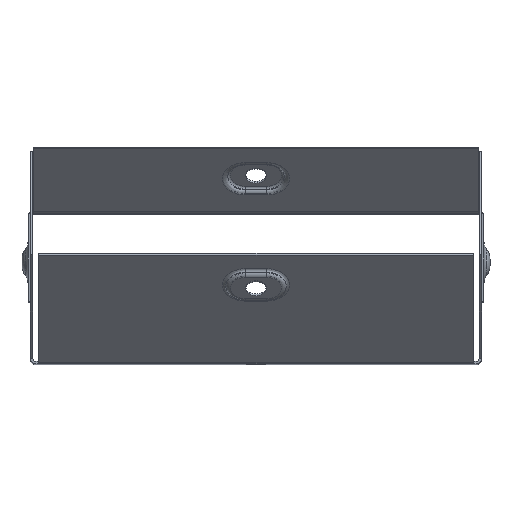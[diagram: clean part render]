
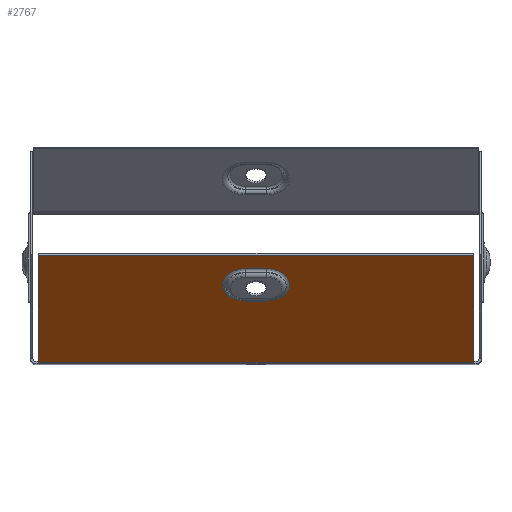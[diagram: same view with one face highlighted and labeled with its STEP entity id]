
A CAD part, top view. The second image highlights one B-rep face of the part: STEP entity #2767.
In plain terms, the highlighted planar face has unit normal (0, -0.707, 0.707).
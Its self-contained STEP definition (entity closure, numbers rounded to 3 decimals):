
#235 = CIRCLE ( 'NONE', #1949, 7.598 ) ;
#236 = CARTESIAN_POINT ( 'NONE',  ( 72.299, -50.273, 84.077 ) ) ;
#636 = ORIENTED_EDGE ( 'NONE', *, *, #5695, .T. ) ;
#1147 = VECTOR ( 'NONE', #12901, 1000. ) ;
#1254 = EDGE_CURVE ( 'NONE', #5560, #4587, #7123, .T. ) ;
#1272 = VERTEX_POINT ( 'NONE', #1566 ) ;
#1463 = CARTESIAN_POINT ( 'NONE',  ( 73.2, -14.702, 119.648 ) ) ;
#1566 = CARTESIAN_POINT ( 'NONE',  ( -3.5, -19.229, 115.121 ) ) ;
#1687 = EDGE_CURVE ( 'NONE', #4587, #11254, #7601, .T. ) ;
#1755 = CARTESIAN_POINT ( 'NONE',  ( 3.5, -29.974, 104.376 ) ) ;
#1936 = CARTESIAN_POINT ( 'NONE',  ( -72.299, -50.273, 84.077 ) ) ;
#1949 = AXIS2_PLACEMENT_3D ( 'NONE', #2522, #9728, #11618 ) ;
#1988 = CIRCLE ( 'NONE', #8026, 7.598 ) ;
#2205 = ORIENTED_EDGE ( 'NONE', *, *, #1254, .T. ) ;
#2277 = VECTOR ( 'NONE', #6783, 1000. ) ;
#2483 = CARTESIAN_POINT ( 'NONE',  ( -3.5, -29.974, 104.376 ) ) ;
#2522 = CARTESIAN_POINT ( 'NONE',  ( 3.5, -24.602, 109.748 ) ) ;
#2532 = FACE_OUTER_BOUND ( 'NONE', #7684, .T. ) ;
#2694 = CARTESIAN_POINT ( 'NONE',  ( 72.299, -14.702, 119.648 ) ) ;
#2757 = AXIS2_PLACEMENT_3D ( 'NONE', #10101, #8189, #4113 ) ;
#2767 = ADVANCED_FACE ( 'NONE', ( #3170, #2532 ), #11062, .F. ) ;
#3107 = LINE ( 'NONE', #11671, #12191 ) ;
#3170 = FACE_BOUND ( 'NONE', #7710, .T. ) ;
#3454 = EDGE_CURVE ( 'NONE', #3758, #13193, #4942, .T. ) ;
#3677 = ORIENTED_EDGE ( 'NONE', *, *, #3454, .T. ) ;
#3758 = VERTEX_POINT ( 'NONE', #10755 ) ;
#3775 = DIRECTION ( 'NONE',  ( -1., 0., 0. ) ) ;
#4009 = CARTESIAN_POINT ( 'NONE',  ( 73.2, -50.273, 84.077 ) ) ;
#4057 = EDGE_CURVE ( 'NONE', #5560, #8182, #9142, .T. ) ;
#4113 = DIRECTION ( 'NONE',  ( 0., 0.707, 0.707 ) ) ;
#4535 = DIRECTION ( 'NONE',  ( -1., 0., 0. ) ) ;
#4587 = VERTEX_POINT ( 'NONE', #2694 ) ;
#4938 = EDGE_CURVE ( 'NONE', #13368, #3758, #235, .T. ) ;
#4942 = LINE ( 'NONE', #1755, #8663 ) ;
#5560 = VERTEX_POINT ( 'NONE', #236 ) ;
#5695 = EDGE_CURVE ( 'NONE', #11254, #8182, #3107, .T. ) ;
#6237 = ORIENTED_EDGE ( 'NONE', *, *, #12493, .T. ) ;
#6278 = CARTESIAN_POINT ( 'NONE',  ( 3.5, -19.229, 115.121 ) ) ;
#6783 = DIRECTION ( 'NONE',  ( 0., 0.707, 0.707 ) ) ;
#7032 = ORIENTED_EDGE ( 'NONE', *, *, #1687, .T. ) ;
#7123 = LINE ( 'NONE', #12917, #2277 ) ;
#7601 = LINE ( 'NONE', #1463, #1147 ) ;
#7684 = EDGE_LOOP ( 'NONE', ( #636, #13092, #2205, #7032 ) ) ;
#7710 = EDGE_LOOP ( 'NONE', ( #6237, #9123, #3677, #9472 ) ) ;
#8026 = AXIS2_PLACEMENT_3D ( 'NONE', #10920, #8815, #12981 ) ;
#8182 = VERTEX_POINT ( 'NONE', #1936 ) ;
#8189 = DIRECTION ( 'NONE',  ( 0., 0.707, -0.707 ) ) ;
#8364 = DIRECTION ( 'NONE',  ( 1., 0., 0. ) ) ;
#8663 = VECTOR ( 'NONE', #3775, 1000. ) ;
#8815 = DIRECTION ( 'NONE',  ( 0., 0.707, -0.707 ) ) ;
#9116 = LINE ( 'NONE', #6278, #9925 ) ;
#9123 = ORIENTED_EDGE ( 'NONE', *, *, #4938, .T. ) ;
#9142 = LINE ( 'NONE', #4009, #10275 ) ;
#9472 = ORIENTED_EDGE ( 'NONE', *, *, #12690, .T. ) ;
#9728 = DIRECTION ( 'NONE',  ( 0., 0.707, -0.707 ) ) ;
#9925 = VECTOR ( 'NONE', #8364, 1000. ) ;
#10101 = CARTESIAN_POINT ( 'NONE',  ( 73.2, -50.8, 83.55 ) ) ;
#10152 = CARTESIAN_POINT ( 'NONE',  ( -72.299, -14.702, 119.648 ) ) ;
#10275 = VECTOR ( 'NONE', #4535, 1000. ) ;
#10755 = CARTESIAN_POINT ( 'NONE',  ( 3.5, -29.974, 104.376 ) ) ;
#10920 = CARTESIAN_POINT ( 'NONE',  ( -3.5, -24.602, 109.748 ) ) ;
#11062 = PLANE ( 'NONE',  #2757 ) ;
#11254 = VERTEX_POINT ( 'NONE', #10152 ) ;
#11618 = DIRECTION ( 'NONE',  ( 0., 0.707, 0.707 ) ) ;
#11671 = CARTESIAN_POINT ( 'NONE',  ( -72.299, -50.8, 83.55 ) ) ;
#12191 = VECTOR ( 'NONE', #13309, 1000. ) ;
#12493 = EDGE_CURVE ( 'NONE', #1272, #13368, #9116, .T. ) ;
#12690 = EDGE_CURVE ( 'NONE', #13193, #1272, #1988, .T. ) ;
#12901 = DIRECTION ( 'NONE',  ( -1., 0., 0. ) ) ;
#12917 = CARTESIAN_POINT ( 'NONE',  ( 72.299, -51.015, 83.335 ) ) ;
#12981 = DIRECTION ( 'NONE',  ( 0., 0.707, 0.707 ) ) ;
#13012 = CARTESIAN_POINT ( 'NONE',  ( 3.5, -19.229, 115.121 ) ) ;
#13092 = ORIENTED_EDGE ( 'NONE', *, *, #4057, .F. ) ;
#13193 = VERTEX_POINT ( 'NONE', #2483 ) ;
#13309 = DIRECTION ( 'NONE',  ( 0., -0.707, -0.707 ) ) ;
#13368 = VERTEX_POINT ( 'NONE', #13012 ) ;
